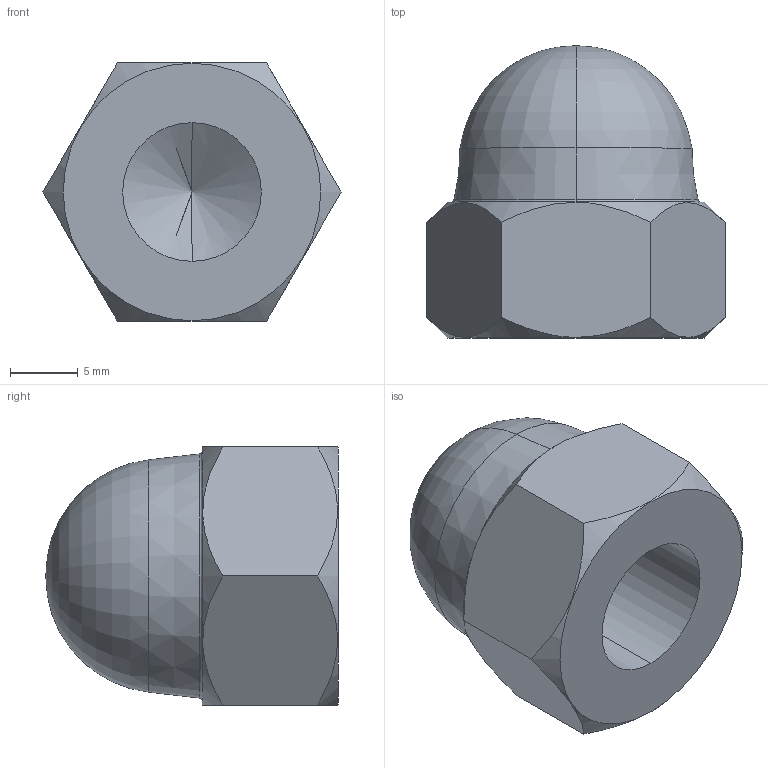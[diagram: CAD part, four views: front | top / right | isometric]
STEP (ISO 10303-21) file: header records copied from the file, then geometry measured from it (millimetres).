
FILE_DESCRIPTION (( 'STEP AP203' ), '1' );
FILE_NAME ('SAGOTOOL.P.TAN_BAU_M12.STEP', '2026-07-09T03:08:48', ( '' ), ( '' ), 'SwSTEP 2.0', 'SolidWorks 2020', '' );
FILE_SCHEMA (( 'CONFIG_CONTROL_DESIGN' ));
Length unit declared in the file: millimetre
Products named in the file (1): SAGOTOOL.P.TAN_BAU_M12
Bounding box: 21.94 x 21.5 x 19 mm (x, y, z)
Volume: 3684.2 mm3; surface area: 2169.1 mm2
Topology: 1 solids, 1 shells, 23 faces, 54 edges, 33 vertices
Faces by surface type: plane 9, cone 8, torus 4, cylinder 2
Entity records: 839 total; most frequent: CARTESIAN_POINT 257, DIRECTION 104, ORIENTED_EDGE 104, EDGE_CURVE 52, AXIS2_PLACEMENT_3D 44, VERTEX_POINT 33, EDGE_LOOP 25, ADVANCED_FACE 23
